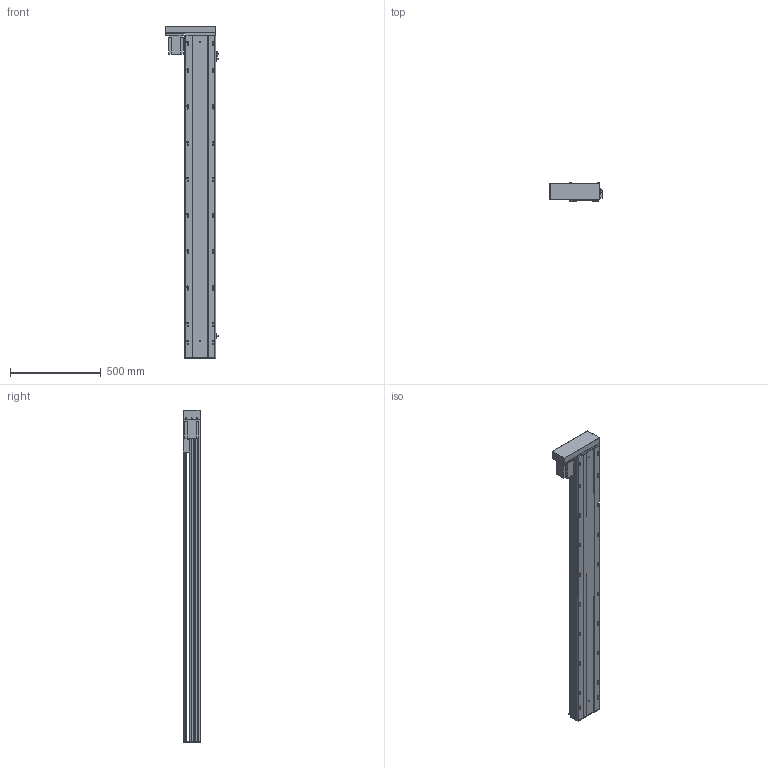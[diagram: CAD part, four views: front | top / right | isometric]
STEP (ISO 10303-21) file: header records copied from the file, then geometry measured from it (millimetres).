
FILE_DESCRIPTION (( 'STEP AP203' ), '1' );
FILE_NAME ('Y170-D10-S1550-BL-P750W.STEP', '2020-01-19T23:20:24', ( '微软用户' ), ( '微软中国' ), 'SwSTEP 2.0', 'SolidWorks 2017', '' );
FILE_SCHEMA (( 'CONFIG_CONTROL_DESIGN' ));
Length unit declared in the file: millimetre
Products named in the file (12): Y170耜裔--準---; Y-BL.BR-俋欶; YD-Y100-135-新外置传感挡片(通用）; Y170-陔遴奻裔-BR; Y100-135俋离換覜ん; Y--BL蟀諉啣-陔遴-; 170--掛极-BR; Y170-D10-S1550-BL-P750W; Y170-BL-P750W楊擘啣; 侂狟750W; EGH20賑輸_蕼偞; Y雄赽釱-耜蚾
Assembly tree (14 placements, depth 2):
  Y170-D10-S1550-BL-P750W
    Y170耜裔--準---
    YD-Y100-135-新外置传感挡片(通用）
    Y100-135俋离換覜ん  x3
    170--掛极-BR
    Y170-BL-P750W楊擘啣
    侂狟750W
    EGH20賑輸_蕼偞  x2
    Y雄赽釱-耜蚾
    Y-BL.BR-俋欶
    Y170-陔遴奻裔-BR
    Y--BL蟀諉啣-陔遴-
Bounding box: 289 x 97 x 1833.5 mm (x, y, z)
Volume: 8128222 mm3; surface area: 2876093.4 mm2
Topology: 14 solids, 14 shells, 971 faces, 2782 edges, 1836 vertices
Faces by surface type: cylinder 510, plane 445, cone 16
Entity records: 31330 total; most frequent: CARTESIAN_POINT 5704, DIRECTION 5160, ORIENTED_EDGE 5060, EDGE_CURVE 2530, AXIS2_PLACEMENT_3D 1848, VERTEX_POINT 1680, VECTOR 1464, LINE 1464
